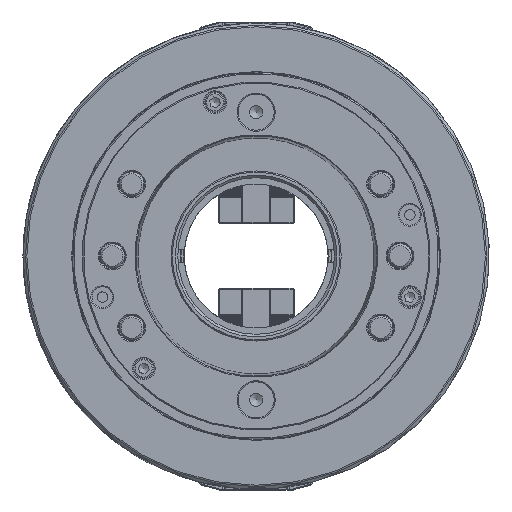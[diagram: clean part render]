
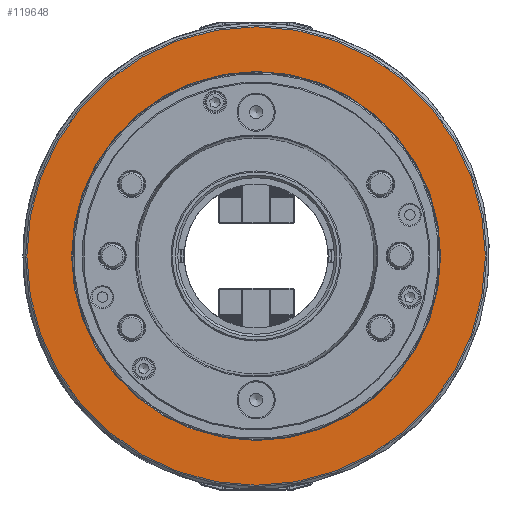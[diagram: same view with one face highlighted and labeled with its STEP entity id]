
A CAD part, front view. The second image highlights one B-rep face of the part: STEP entity #119648.
In plain terms, the highlighted planar face has unit normal (0, -1, 0).
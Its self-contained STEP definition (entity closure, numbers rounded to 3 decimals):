
#33271=PLANE('',#127285);
#35059=FACE_BOUND('',#45093,.T.);
#38863=FACE_OUTER_BOUND('',#45092,.T.);
#45092=EDGE_LOOP('',(#99948));
#45093=EDGE_LOOP('',(#99949));
#48035=CIRCLE('',#126769,187.294);
#48037=CIRCLE('',#126772,150.721);
#56857=VERTEX_POINT('',#191021);
#56859=VERTEX_POINT('',#191026);
#72125=EDGE_CURVE('',#56857,#56857,#48035,.T.);
#72127=EDGE_CURVE('',#56859,#56859,#48037,.T.);
#99948=ORIENTED_EDGE('',*,*,#72125,.T.);
#99949=ORIENTED_EDGE('',*,*,#72127,.T.);
#119648=ADVANCED_FACE('',(#38863,#35059),#33271,.T.);
#126769=AXIS2_PLACEMENT_3D('',#191022,#149891,#149892);
#126772=AXIS2_PLACEMENT_3D('',#191027,#149897,#149898);
#127285=AXIS2_PLACEMENT_3D('',#195457,#151150,#151151);
#149891=DIRECTION('center_axis',(0.,-1.,0.));
#149892=DIRECTION('ref_axis',(0.,0.,1.));
#149897=DIRECTION('center_axis',(0.,1.,0.));
#149898=DIRECTION('ref_axis',(0.,0.,-1.));
#151150=DIRECTION('center_axis',(0.,-1.,0.));
#151151=DIRECTION('ref_axis',(0.,0.,-1.));
#191021=CARTESIAN_POINT('',(0.,0.,-187.294));
#191022=CARTESIAN_POINT('Origin',(0.,0.,0.));
#191026=CARTESIAN_POINT('',(0.,0.,150.721));
#191027=CARTESIAN_POINT('Origin',(0.,0.,0.));
#195457=CARTESIAN_POINT('Origin',(190.5,0.,0.));
